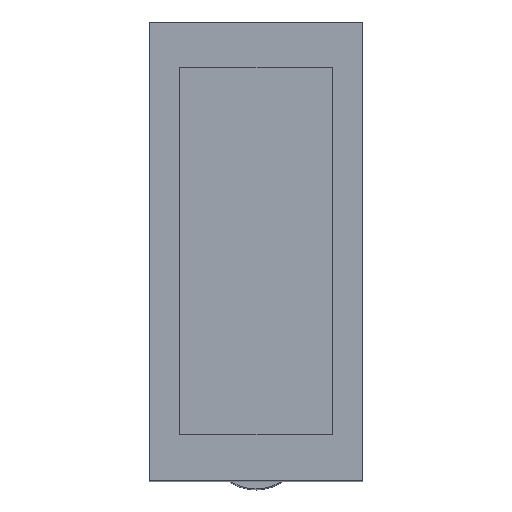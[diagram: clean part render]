
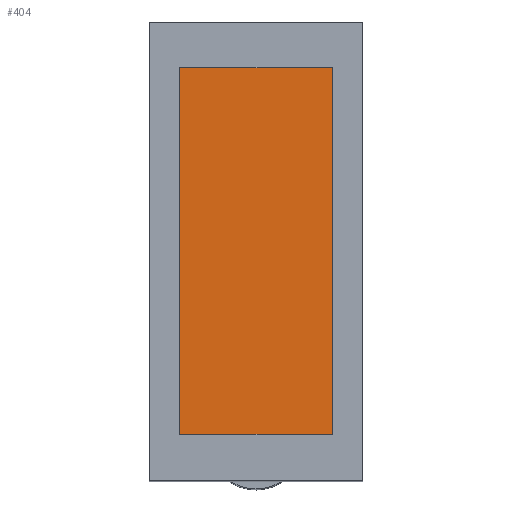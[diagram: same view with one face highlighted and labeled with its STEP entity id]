
A CAD part, top view. The second image highlights one B-rep face of the part: STEP entity #404.
In plain terms, the highlighted planar face has unit normal (0, 0, 1) as drawn and (-1, 0, 0) by its records, which use the part's own axes.
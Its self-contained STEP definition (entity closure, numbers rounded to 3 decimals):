
#404 = ADVANCED_FACE ( 'NONE', ( #1167 ), #1162, .F. ) ;
#405 = EDGE_LOOP ( 'NONE', ( #406, #407, #408, #409 ) ) ;
#406 = ORIENTED_EDGE ( 'NONE', *, *, #435, .F. ) ;
#407 = ORIENTED_EDGE ( 'NONE', *, *, #427, .F. ) ;
#408 = ORIENTED_EDGE ( 'NONE', *, *, #418, .F. ) ;
#409 = ORIENTED_EDGE ( 'NONE', *, *, #410, .T. ) ;
#410 = EDGE_CURVE ( 'NONE', #416, #436, #1224, .T. ) ;
#416 = VERTEX_POINT ( 'NONE', #1210 ) ;
#418 = EDGE_CURVE ( 'NONE', #416, #419, #1209, .T. ) ;
#419 = VERTEX_POINT ( 'NONE', #1205 ) ;
#427 = EDGE_CURVE ( 'NONE', #419, #433, #1194, .T. ) ;
#433 = VERTEX_POINT ( 'NONE', #1246 ) ;
#435 = EDGE_CURVE ( 'NONE', #433, #436, #1245, .T. ) ;
#436 = VERTEX_POINT ( 'NONE', #1241 ) ;
#1158 = DIRECTION ( 'NONE',  ( 0., 0., -1. ) ) ;
#1159 = DIRECTION ( 'NONE',  ( 1., 0., 0. ) ) ;
#1160 = CARTESIAN_POINT ( 'NONE',  ( 0.1, 0., 2.5 ) ) ;
#1161 = AXIS2_PLACEMENT_3D ( 'NONE', #1160, #1159, #1158 ) ;
#1162 = PLANE ( 'NONE',  #1161 ) ;
#1167 = FACE_OUTER_BOUND ( 'NONE', #405, .T. ) ;
#1192 = VECTOR ( 'NONE', #1257, 1000. ) ;
#1193 = CARTESIAN_POINT ( 'NONE',  ( 0.1, 6., 2.5 ) ) ;
#1194 = LINE ( 'NONE', #1193, #1192 ) ;
#1205 = CARTESIAN_POINT ( 'NONE',  ( 0.1, 6., -2.5 ) ) ;
#1206 = DIRECTION ( 'NONE',  ( 0., 1., 0. ) ) ;
#1207 = VECTOR ( 'NONE', #1206, 1000. ) ;
#1208 = CARTESIAN_POINT ( 'NONE',  ( 0.1, 6., -2.5 ) ) ;
#1209 = LINE ( 'NONE', #1208, #1207 ) ;
#1210 = CARTESIAN_POINT ( 'NONE',  ( 0.1, -6., -2.5 ) ) ;
#1221 = DIRECTION ( 'NONE',  ( 0., 0., 1. ) ) ;
#1222 = VECTOR ( 'NONE', #1221, 1000. ) ;
#1223 = CARTESIAN_POINT ( 'NONE',  ( 0.1, -6., 2.5 ) ) ;
#1224 = LINE ( 'NONE', #1223, #1222 ) ;
#1241 = CARTESIAN_POINT ( 'NONE',  ( 0.1, -6., 2.5 ) ) ;
#1242 = DIRECTION ( 'NONE',  ( 0., -1., 0. ) ) ;
#1243 = VECTOR ( 'NONE', #1242, 1000. ) ;
#1244 = CARTESIAN_POINT ( 'NONE',  ( 0.1, 6., 2.5 ) ) ;
#1245 = LINE ( 'NONE', #1244, #1243 ) ;
#1246 = CARTESIAN_POINT ( 'NONE',  ( 0.1, 6., 2.5 ) ) ;
#1257 = DIRECTION ( 'NONE',  ( 0., 0., 1. ) ) ;
